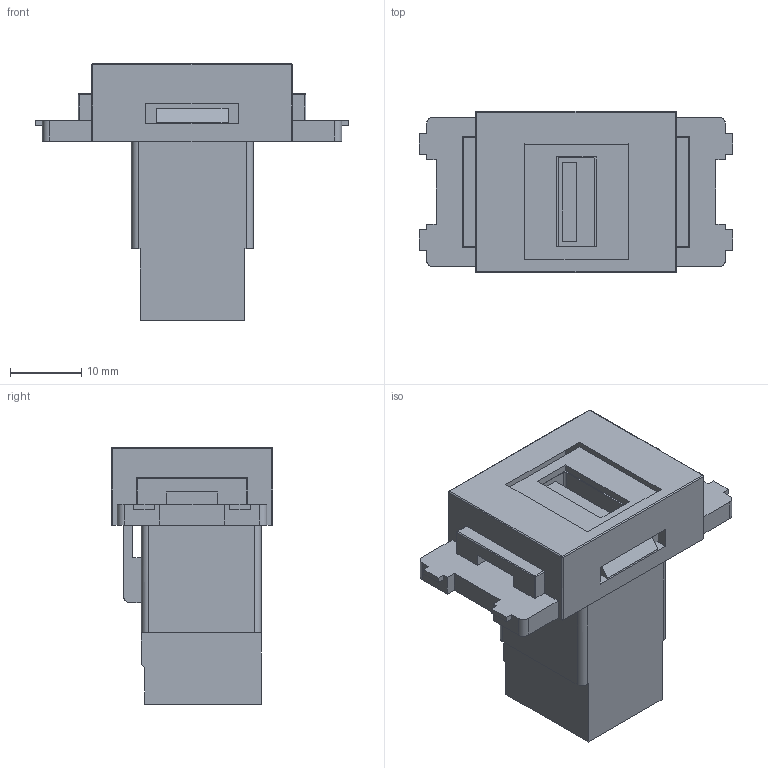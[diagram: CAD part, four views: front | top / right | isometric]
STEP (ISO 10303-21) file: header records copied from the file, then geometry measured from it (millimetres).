
FILE_DESCRIPTION(('FreeCAD Model'),'2;1');
FILE_NAME('Open CASCADE Shape Model','2026-05-12T10:02:06',(''),(''), 'Open CASCADE STEP processor 7.8','FreeCAD','Unknown');
FILE_SCHEMA(('AUTOMOTIVE_DESIGN { 1 0 10303 214 1 1 1 1 }'));
Length unit declared in the file: millimetre
Products named in the file (3): CC_USBA_XX_KH; 210USB06N2xx; SY-NWT-KH-xx
Assembly tree (2 placements, depth 2):
  CC_USBA_XX_KH
    210USB06N2xx
    SY-NWT-KH-xx
Bounding box: 43.95 x 22.65 x 35.95 mm (x, y, z)
Volume: 11724.1 mm3; surface area: 8347.7 mm2
Topology: 2 solids, 2 shells, 201 faces, 553 edges, 360 vertices
Faces by surface type: bspline 201
Entity records: 8738 total; most frequent: CARTESIAN_POINT 5301, ORIENTED_EDGE 1106, EDGE_CURVE 553, B_SPLINE_CURVE_WITH_KNOTS 553, VERTEX_POINT 360, FACE_BOUND 215, EDGE_LOOP 215, ADVANCED_FACE 201
